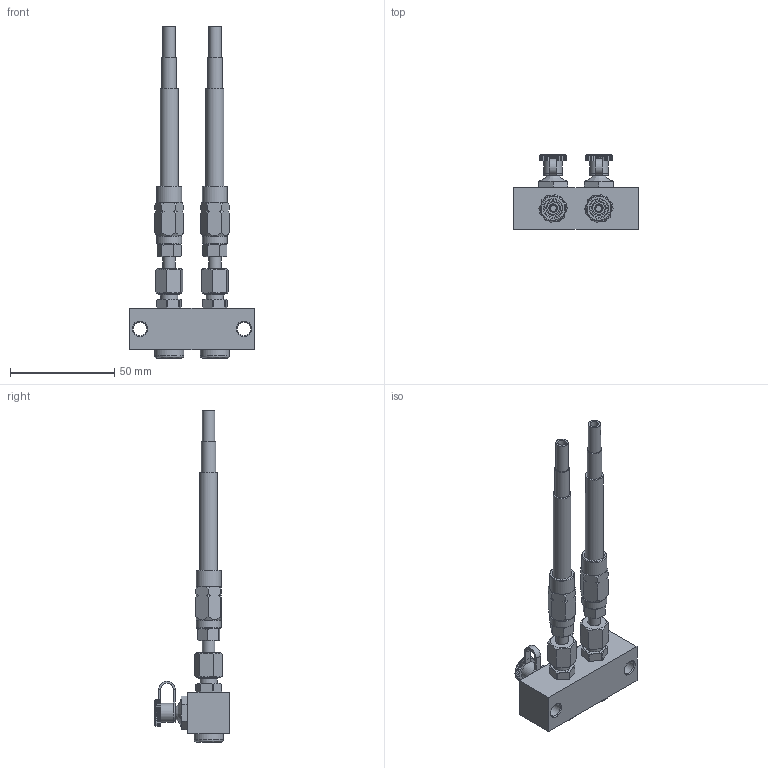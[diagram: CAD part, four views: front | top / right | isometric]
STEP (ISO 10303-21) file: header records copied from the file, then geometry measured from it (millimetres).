
FILE_DESCRIPTION (( 'STEP AP214' ), '1' );
FILE_NAME ('1460_0102_HS1.STEP', '2026-01-21T13:52:56', ( '' ), ( '' ), 'SwSTEP 2.0', 'SolidWorks 2022', '' );
FILE_SCHEMA (( 'AUTOMOTIVE_DESIGN' ));
Length unit declared in the file: millimetre
Products named in the file (19): Staubkappe_Fettnippel; Lasche_Staubkappe; Rohrstutzen_Schraubhuelse; HD_Schlauch_Aussenteil; HD_Schlauch_Mittelteil; Rohrstutzen; 1460_01_02_ASL-02_002; 749-M10X1-A; Schraubhülse; 991214010601_Koerper; 991214010601_Mutter; Schmiernippel_Staubkappe; 991214010601; schmiernippel_M10_1; 991214010601_Schneidring; POLY_6_4_gerade; 1460_0102_HS1; Staubkappe; HD_Schlauch_Ansicht
Assembly tree (21 placements, depth 4):
  1460_0102_HS1
    1460_01_02_ASL-02_002
    Rohrstutzen_Schraubhuelse  x2
      Rohrstutzen
      Schraubhülse
      HD_Schlauch_Ansicht
        HD_Schlauch_Aussenteil
        HD_Schlauch_Mittelteil
        POLY_6_4_gerade
      991214010601
        991214010601_Koerper
        991214010601_Schneidring
        991214010601_Mutter
    Schmiernippel_Staubkappe  x2
      schmiernippel_M10_1
      Staubkappe_Fettnippel
        Lasche_Staubkappe
        Staubkappe
    749-M10X1-A  x2
Bounding box: 60 x 36 x 159.6 mm (x, y, z)
Volume: 39130.1 mm3; surface area: 42777.3 mm2
Topology: 23 solids, 27 shells, 762 faces, 1952 edges, 1278 vertices
Faces by surface type: plane 394, cylinder 178, cone 96, bspline 94
Full cylindrical faces by diameter (mm): 1.5 x2, 3 x2, 4 x2, 4.5 x2, 5 x2, 6 x24, 6.01 x2, 6.2 x2, 6.495 x2, 6.5 x2, 7 x2, 7.01 x2, 7.4 x2, 7.67 x2, 8 x30, 8.3 x2, 8.4 x2, 8.6 x2, 9 x4, 9.8 x14, 10 x4, 11.9 x2, 12 x4, 14 x2
Entity records: 38021 total; most frequent: CARTESIAN_POINT 28920, ORIENTED_EDGE 1863, DIRECTION 1416, EDGE_CURVE 933, VERTEX_POINT 650, AXIS2_PLACEMENT_3D 529, EDGE_LOOP 513, FACE_OUTER_BOUND 431
